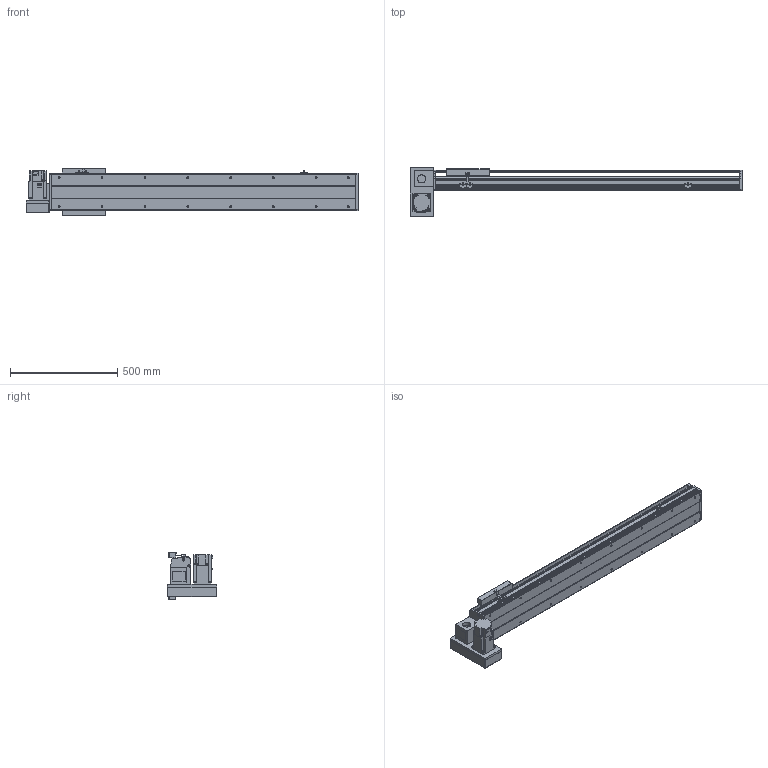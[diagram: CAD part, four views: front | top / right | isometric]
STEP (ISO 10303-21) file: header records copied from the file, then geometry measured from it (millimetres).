
FILE_DESCRIPTION(/* description */ ('STEP AP214'),/* implementation_level */ '2;1');
FILE_NAME(/* name */ 'PBS200-P40-S1050-LD-T75-C1-N(0)',/* time_stamp */ '2022-06-11T08:44:22+02:00',/* author */ ('License CC BY-ND 4.0'),/* organization */ ('CADENAS'),/* preprocessor_version */ 'ST-DEVELOPER v18.102',/* originating_system */ 'PARTsolutions',/* authorisation */ ' ');
FILE_SCHEMA (('AUTOMOTIVE_DESIGN {1 0 10303 214 3 1 1}'));
Length unit declared in the file: millimetre
Products named in the file (7): PBS200-P40-S1050-LD-T75-C1-N(0); PBS200_sensor; PBS200_plant; PBS200_sliser; T75-p1; PBS200T-LD_motors; PBS200-S1050()_body
Assembly tree (8 placements, depth 2):
  PBS200-P40-S1050-LD-T75-C1-N(0)
    PBS200_sensor  x3
    PBS200_plant
    PBS200_sliser
    T75-p1
    PBS200T-LD_motors
    PBS200-S1050()_body
Bounding box: 1550 x 230 x 221 mm (x, y, z)
Volume: 11549624.3 mm3; surface area: 1868706.8 mm2
Topology: 8 solids, 8 shells, 920 faces, 2374 edges, 1548 vertices
Faces by surface type: plane 574, cylinder 298, cone 48
Full cylindrical faces by diameter (mm): 2.459 x6, 3.242 x4, 4.5 x6, 4.917 x4, 5 x6, 6 x7, 6.6 x8, 6.647 x20, 8 x6, 10 x4, 12 x8, 38 x2, 40 x1, 70 x1
Entity records: 24581 total; most frequent: DIRECTION 4327, CARTESIAN_POINT 4192, ORIENTED_EDGE 3982, EDGE_CURVE 1991, AXIS2_PLACEMENT_3D 1507, VERTEX_POINT 1372, LINE 1313, VECTOR 1313
